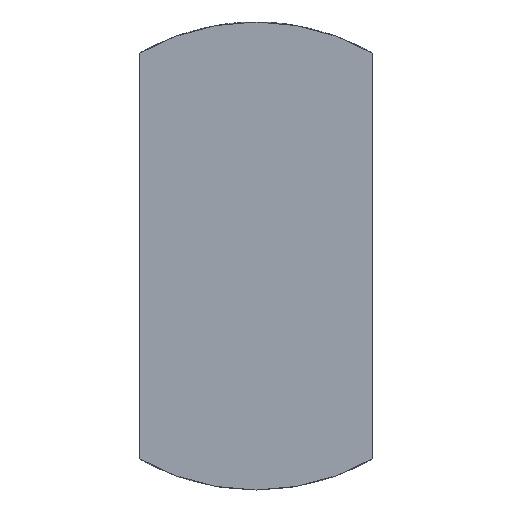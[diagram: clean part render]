
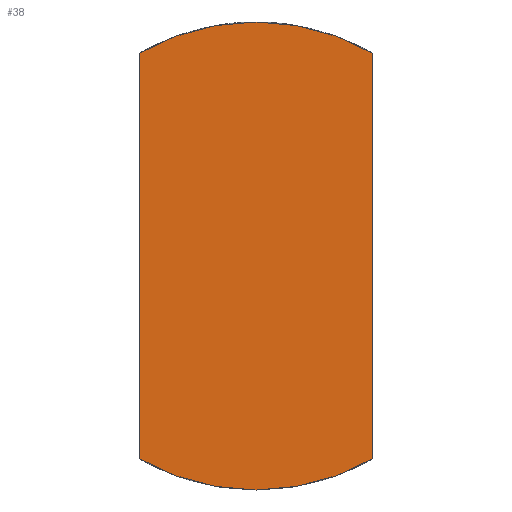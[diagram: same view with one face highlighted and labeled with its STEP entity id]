
A CAD part, front view. The second image highlights one B-rep face of the part: STEP entity #38.
In plain terms, the highlighted planar face has unit normal (0, -1, 0).
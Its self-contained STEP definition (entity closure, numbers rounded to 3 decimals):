
#28 = DIRECTION ( 'NONE',  ( 0., -1., 0. ) ) ;
#38 = ADVANCED_FACE ( 'NONE', ( #1762 ), #1167, .T. ) ;
#52 = ORIENTED_EDGE ( 'NONE', *, *, #3874, .T. ) ;
#275 = AXIS2_PLACEMENT_3D ( 'NONE', #377, #738, #395 ) ;
#337 = CARTESIAN_POINT ( 'NONE',  ( 0., 0., 0. ) ) ;
#377 = CARTESIAN_POINT ( 'NONE',  ( 0., 0., 0. ) ) ;
#395 = DIRECTION ( 'NONE',  ( 0., 0., -1. ) ) ;
#478 = DIRECTION ( 'NONE',  ( 0., 0., 1. ) ) ;
#486 = ORIENTED_EDGE ( 'NONE', *, *, #835, .T. ) ;
#511 = AXIS2_PLACEMENT_3D ( 'NONE', #2693, #3290, #2968 ) ;
#625 = CARTESIAN_POINT ( 'NONE',  ( 15., 0., 25.981 ) ) ;
#687 = DIRECTION ( 'NONE',  ( 0., -1., 0. ) ) ;
#738 = DIRECTION ( 'NONE',  ( 0., -1., 0. ) ) ;
#762 = ORIENTED_EDGE ( 'NONE', *, *, #2810, .T. ) ;
#788 = VECTOR ( 'NONE', #1967, 1000. ) ;
#835 = EDGE_CURVE ( 'NONE', #1961, #2528, #2500, .T. ) ;
#872 = EDGE_CURVE ( 'NONE', #2501, #1436, #3701, .T. ) ;
#922 = EDGE_LOOP ( 'NONE', ( #2404, #762, #486, #52, #1336 ) ) ;
#960 = CARTESIAN_POINT ( 'NONE',  ( 15., 0., -25.981 ) ) ;
#965 = CIRCLE ( 'NONE', #3749, 30. ) ;
#1167 = PLANE ( 'NONE',  #511 ) ;
#1255 = DIRECTION ( 'NONE',  ( 0., 0., -1. ) ) ;
#1336 = ORIENTED_EDGE ( 'NONE', *, *, #872, .T. ) ;
#1395 = LINE ( 'NONE', #3514, #3597 ) ;
#1436 = VERTEX_POINT ( 'NONE', #1795 ) ;
#1499 = AXIS2_PLACEMENT_3D ( 'NONE', #337, #28, #1255 ) ;
#1762 = FACE_OUTER_BOUND ( 'NONE', #922, .T. ) ;
#1795 = CARTESIAN_POINT ( 'NONE',  ( -15., 0., 25.981 ) ) ;
#1961 = VERTEX_POINT ( 'NONE', #2278 ) ;
#1967 = DIRECTION ( 'NONE',  ( 0., 0., 1. ) ) ;
#2041 = EDGE_CURVE ( 'NONE', #3315, #1436, #2200, .T. ) ;
#2200 = LINE ( 'NONE', #3152, #788 ) ;
#2278 = CARTESIAN_POINT ( 'NONE',  ( 0., 0., -30. ) ) ;
#2404 = ORIENTED_EDGE ( 'NONE', *, *, #2041, .F. ) ;
#2471 = CARTESIAN_POINT ( 'NONE',  ( 0., 0., 0. ) ) ;
#2500 = CIRCLE ( 'NONE', #1499, 30. ) ;
#2501 = VERTEX_POINT ( 'NONE', #625 ) ;
#2528 = VERTEX_POINT ( 'NONE', #960 ) ;
#2693 = CARTESIAN_POINT ( 'NONE',  ( 0., 0., 0. ) ) ;
#2810 = EDGE_CURVE ( 'NONE', #3315, #1961, #965, .T. ) ;
#2968 = DIRECTION ( 'NONE',  ( 0., 0., -1. ) ) ;
#3152 = CARTESIAN_POINT ( 'NONE',  ( -15., 0., -30. ) ) ;
#3290 = DIRECTION ( 'NONE',  ( 0., -1., 0. ) ) ;
#3315 = VERTEX_POINT ( 'NONE', #3656 ) ;
#3514 = CARTESIAN_POINT ( 'NONE',  ( 15., 0., -30. ) ) ;
#3597 = VECTOR ( 'NONE', #478, 1000. ) ;
#3656 = CARTESIAN_POINT ( 'NONE',  ( -15., 0., -25.981 ) ) ;
#3677 = DIRECTION ( 'NONE',  ( 0., 0., -1. ) ) ;
#3701 = CIRCLE ( 'NONE', #275, 30. ) ;
#3749 = AXIS2_PLACEMENT_3D ( 'NONE', #2471, #687, #3677 ) ;
#3874 = EDGE_CURVE ( 'NONE', #2528, #2501, #1395, .T. ) ;
